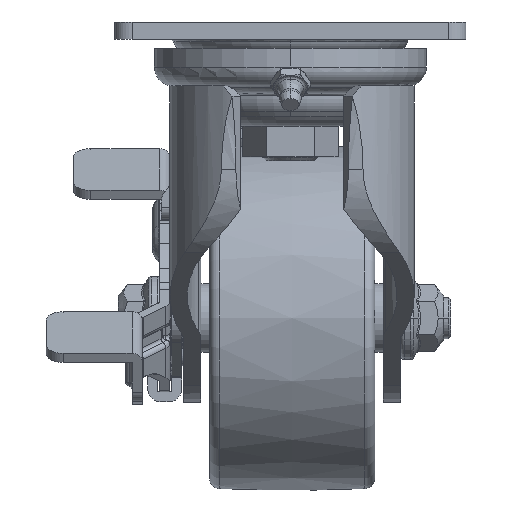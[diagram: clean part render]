
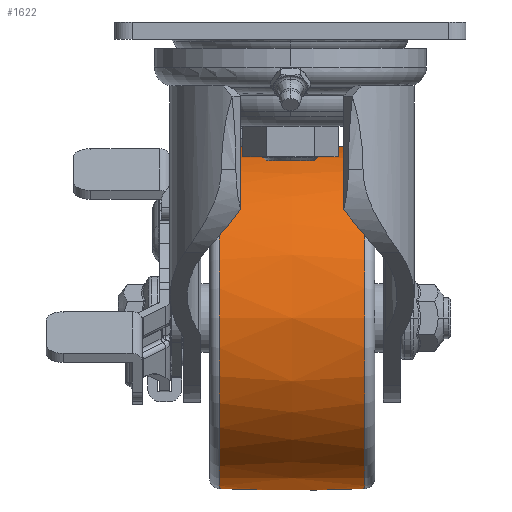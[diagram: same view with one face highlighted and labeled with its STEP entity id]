
A CAD part, left-side view. The second image highlights one B-rep face of the part: STEP entity #1622.
In plain terms, the highlighted free-form (B-spline) face has degree [2, 2] with [3, 9] control points.
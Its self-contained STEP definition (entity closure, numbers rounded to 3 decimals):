
#1549=CARTESIAN_POINT('',(143.289,-155.411,92.715));
#1550=CARTESIAN_POINT('',(143.289,-134.285,91.822));
#1551=CARTESIAN_POINT('',(143.289,-113.158,92.715));
#1552=CARTESIAN_POINT('',(192.842,-155.411,92.715));
#1553=CARTESIAN_POINT('',(193.735,-134.285,91.822));
#1554=CARTESIAN_POINT('',(192.842,-113.158,92.715));
#1555=CARTESIAN_POINT('',(192.842,-155.411,142.269));
#1556=CARTESIAN_POINT('',(193.735,-134.285,142.269));
#1557=CARTESIAN_POINT('',(192.842,-113.158,142.269));
#1558=CARTESIAN_POINT('',(192.842,-155.411,191.822));
#1559=CARTESIAN_POINT('',(193.735,-134.285,192.716));
#1560=CARTESIAN_POINT('',(192.842,-113.158,191.822));
#1561=CARTESIAN_POINT('',(143.289,-155.411,191.822));
#1562=CARTESIAN_POINT('',(143.289,-134.285,192.716));
#1563=CARTESIAN_POINT('',(143.289,-113.158,191.822));
#1564=CARTESIAN_POINT('',(93.735,-155.411,191.822));
#1565=CARTESIAN_POINT('',(92.842,-134.285,192.716));
#1566=CARTESIAN_POINT('',(93.735,-113.158,191.822));
#1567=CARTESIAN_POINT('',(93.735,-155.411,142.269));
#1568=CARTESIAN_POINT('',(92.842,-134.285,142.269));
#1569=CARTESIAN_POINT('',(93.735,-113.158,142.269));
#1570=CARTESIAN_POINT('',(93.735,-155.411,92.715));
#1571=CARTESIAN_POINT('',(92.842,-134.285,91.822));
#1572=CARTESIAN_POINT('',(93.735,-113.158,92.715));
#1573=CARTESIAN_POINT('',(143.289,-155.411,92.715));
#1574=CARTESIAN_POINT('',(143.289,-134.285,91.822));
#1575=CARTESIAN_POINT('',(143.289,-113.158,92.715));
#1583=(BOUNDED_SURFACE()B_SPLINE_SURFACE(2,2,((#1549,#1552,#1555,#1558,#1561,#1564,#1567,#1570,#1573),(#1550,#1553,#1556,#1559,#1562,#1565,#1568,#1571,#1574),(#1551,#1554,#1557,#1560,#1563,#1566,#1569,#1572,#1575)),.UNSPECIFIED.,.F.,.T.,.U.)B_SPLINE_SURFACE_WITH_KNOTS((3,3),(3,2,2,2,3),(-0.042,0.042),(0.0,1.571,3.142,4.712,6.283),.UNSPECIFIED.)GEOMETRIC_REPRESENTATION_ITEM()RATIONAL_B_SPLINE_SURFACE(((1.0,0.707,1.0,0.707,1.0,0.707,1.0,0.707,1.0),(0.999,0.706,0.999,0.706,0.999,0.706,0.999,0.706,0.999),(1.0,0.707,1.0,0.707,1.0,0.707,1.0,0.707,1.0)))REPRESENTATION_ITEM('')SURFACE());
#1584=CARTESIAN_POINT('',(143.289,-113.158,191.822));
#1585=VERTEX_POINT('',#1584);
#1586=CARTESIAN_POINT('',(143.289,-155.411,191.822));
#1587=VERTEX_POINT('',#1586);
#1588=CARTESIAN_POINT('',(143.289,-134.285,-307.731));
#1589=DIRECTION('',(1.0,0.0,0.0));
#1590=DIRECTION('',(0.0,0.0,1.0));
#1591=AXIS2_PLACEMENT_3D('',#1588,#1589,#1590);
#1592=CIRCLE('',#1591,500.0);
#1593=EDGE_CURVE('',#1585,#1587,#1592,.T.);
#1594=ORIENTED_EDGE('',*,*,#1593,.F.);
#1595=CARTESIAN_POINT('',(143.289,-113.158,92.715));
#1596=VERTEX_POINT('',#1595);
#1597=CARTESIAN_POINT('',(143.289,-113.158,142.269));
#1598=DIRECTION('',(0.0,1.0,0.0));
#1599=DIRECTION('',(0.0,0.0,1.0));
#1600=AXIS2_PLACEMENT_3D('',#1597,#1598,#1599);
#1601=CIRCLE('',#1600,49.553);
#1602=EDGE_CURVE('',#1596,#1585,#1601,.T.);
#1603=ORIENTED_EDGE('',*,*,#1602,.F.);
#1604=CARTESIAN_POINT('',(143.289,-155.411,92.715));
#1605=VERTEX_POINT('',#1604);
#1606=CARTESIAN_POINT('',(143.289,-134.285,592.269));
#1607=DIRECTION('',(-1.0,0.0,0.0));
#1608=DIRECTION('',(0.0,0.0,-1.0));
#1609=AXIS2_PLACEMENT_3D('',#1606,#1607,#1608);
#1610=CIRCLE('',#1609,500.0);
#1611=EDGE_CURVE('',#1596,#1605,#1610,.T.);
#1612=ORIENTED_EDGE('',*,*,#1611,.T.);
#1613=CARTESIAN_POINT('',(143.289,-155.411,142.269));
#1614=DIRECTION('',(0.0,1.0,0.0));
#1615=DIRECTION('',(0.0,0.0,1.0));
#1616=AXIS2_PLACEMENT_3D('',#1613,#1614,#1615);
#1617=CIRCLE('',#1616,49.553);
#1618=EDGE_CURVE('',#1605,#1587,#1617,.T.);
#1619=ORIENTED_EDGE('',*,*,#1618,.T.);
#1620=EDGE_LOOP('',(#1594,#1603,#1612,#1619));
#1621=FACE_OUTER_BOUND('',#1620,.T.);
#1622=ADVANCED_FACE('',(#1621),#1583,.T.);
